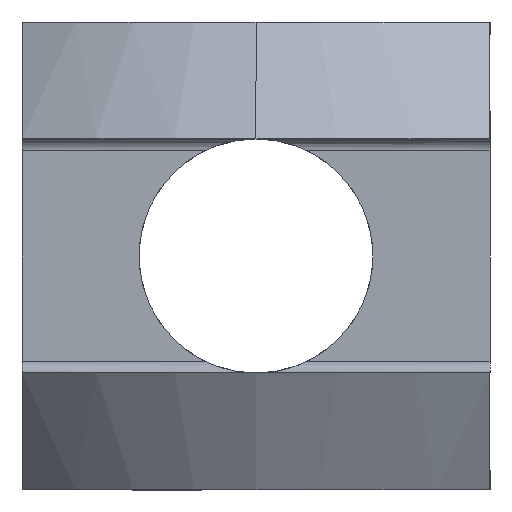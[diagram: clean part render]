
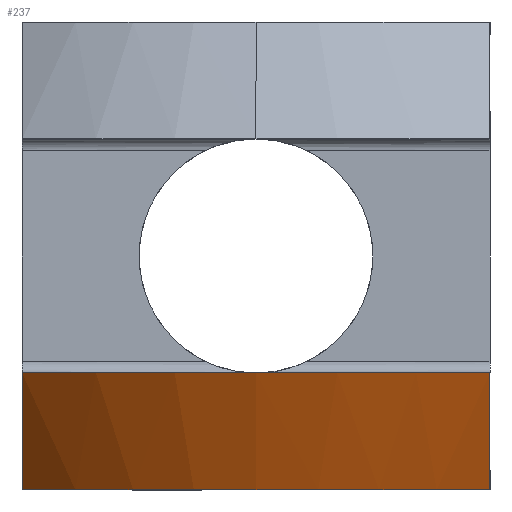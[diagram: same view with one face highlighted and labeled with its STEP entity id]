
A CAD part, left-side view. The second image highlights one B-rep face of the part: STEP entity #237.
In plain terms, the highlighted conical face has half-angle 30 degrees and reference radius 40 mm.
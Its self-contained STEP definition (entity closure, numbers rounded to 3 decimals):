
#1 = EDGE_CURVE ( 'NONE', #1346, #212, #398, .T. ) ;
#161 = VERTEX_POINT ( 'NONE', #651 ) ;
#166 = VERTEX_POINT ( 'NONE', #691 ) ;
#167 = EDGE_CURVE ( 'NONE', #166, #161, #690, .T. ) ;
#212 = VERTEX_POINT ( 'NONE', #822 ) ;
#224 = EDGE_CURVE ( 'NONE', #161, #212, #854, .T. ) ;
#237 = ADVANCED_FACE ( 'NONE', ( #897 ), #893, .T. ) ;
#238 = EDGE_LOOP ( 'NONE', ( #269, #271, #272, #273 ) ) ;
#269 = ORIENTED_EDGE ( 'NONE', *, *, #167, .F. ) ;
#271 = ORIENTED_EDGE ( 'NONE', *, *, #1335, .F. ) ;
#272 = ORIENTED_EDGE ( 'NONE', *, *, #1, .T. ) ;
#273 = ORIENTED_EDGE ( 'NONE', *, *, #224, .F. ) ;
#394 = DIRECTION ( 'NONE',  ( 1., 0., 0. ) ) ;
#395 = DIRECTION ( 'NONE',  ( 0., 0., 1. ) ) ;
#396 = CARTESIAN_POINT ( 'NONE',  ( -65., 0., -20. ) ) ;
#397 = AXIS2_PLACEMENT_3D ( 'NONE', #396, #395, #394 ) ;
#398 = CIRCLE ( 'NONE', #397, 34.226 ) ;
#651 = CARTESIAN_POINT ( 'NONE',  ( -99.641, -20., -10. ) ) ;
#686 = DIRECTION ( 'NONE',  ( 1., 0., 0. ) ) ;
#687 = DIRECTION ( 'NONE',  ( 0., 0., 1. ) ) ;
#688 = CARTESIAN_POINT ( 'NONE',  ( -65., 0., -10. ) ) ;
#689 = AXIS2_PLACEMENT_3D ( 'NONE', #688, #687, #686 ) ;
#690 = CIRCLE ( 'NONE', #689, 40. ) ;
#691 = CARTESIAN_POINT ( 'NONE',  ( -99.641, 20., -10. ) ) ;
#822 = CARTESIAN_POINT ( 'NONE',  ( -92.775, -20., -20. ) ) ;
#849 = CARTESIAN_POINT ( 'NONE',  ( -92.775, -20., -20. ) ) ;
#850 = CARTESIAN_POINT ( 'NONE',  ( -95.12, -20., -16.704 ) ) ;
#851 = CARTESIAN_POINT ( 'NONE',  ( -97.399, -20., -13.364 ) ) ;
#852 = CARTESIAN_POINT ( 'NONE',  ( -99.641, -20., -10. ) ) ;
#854 = B_SPLINE_CURVE_WITH_KNOTS ( 'NONE', 3,
 ( #852, #851, #850, #849 ),
 .UNSPECIFIED., .F., .F.,
 ( 4, 4 ),
 ( 0.029, 0.041 ),
 .UNSPECIFIED. ) ;
#888 = DIRECTION ( 'NONE',  ( 1., 0., 0. ) ) ;
#889 = DIRECTION ( 'NONE',  ( 0., 0., 1. ) ) ;
#890 = AXIS2_PLACEMENT_3D ( 'NONE', #892, #889, #888 ) ;
#892 = CARTESIAN_POINT ( 'NONE',  ( -65., 0., -10. ) ) ;
#893 = CONICAL_SURFACE ( 'NONE', #890, 40., 0.524 ) ;
#897 = FACE_OUTER_BOUND ( 'NONE', #238, .T. ) ;
#1153 = CARTESIAN_POINT ( 'NONE',  ( -99.641, 20., -10. ) ) ;
#1154 = CARTESIAN_POINT ( 'NONE',  ( -97.399, 20., -13.364 ) ) ;
#1155 = CARTESIAN_POINT ( 'NONE',  ( -95.12, 20., -16.704 ) ) ;
#1156 = CARTESIAN_POINT ( 'NONE',  ( -92.775, 20., -20. ) ) ;
#1158 = B_SPLINE_CURVE_WITH_KNOTS ( 'NONE', 3,
 ( #1156, #1155, #1154, #1153 ),
 .UNSPECIFIED., .F., .F.,
 ( 4, 4 ),
 ( 0.072, 0.084 ),
 .UNSPECIFIED. ) ;
#1192 = CARTESIAN_POINT ( 'NONE',  ( -92.775, 20., -20. ) ) ;
#1335 = EDGE_CURVE ( 'NONE', #1346, #166, #1158, .T. ) ;
#1346 = VERTEX_POINT ( 'NONE', #1192 ) ;
